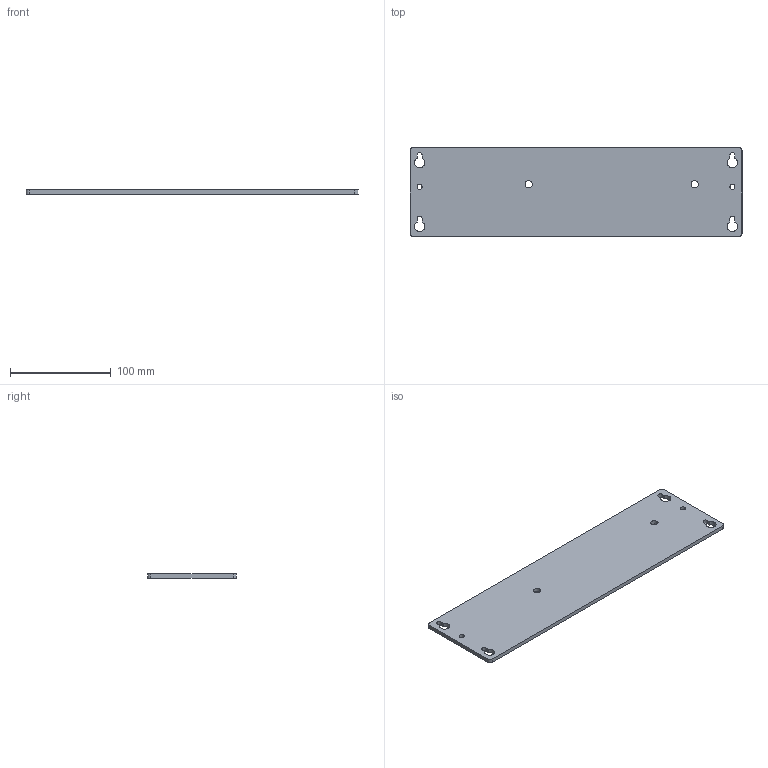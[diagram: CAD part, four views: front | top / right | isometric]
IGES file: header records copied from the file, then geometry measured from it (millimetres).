
Start section:  PTC IGES file: panel_mount_8_slot.igs
Global section: file name: panel_mount_8_slot.igs; native system: Pro/ENGINEER by Parametric Technology Corporation; preprocessor: 2006080; author: chrisj; organization: Unknown; date: 070201.095357; units: inch
Bounding box: 330.2 x 88.14 x 4 mm (x, y, z)
Surface area: 61397.3 mm2 (no closed solid volume)
Topology: 0 solids, 0 shells, 34 faces, 192 edges, 192 vertices
Faces by surface type: revolution 20, bspline 14
